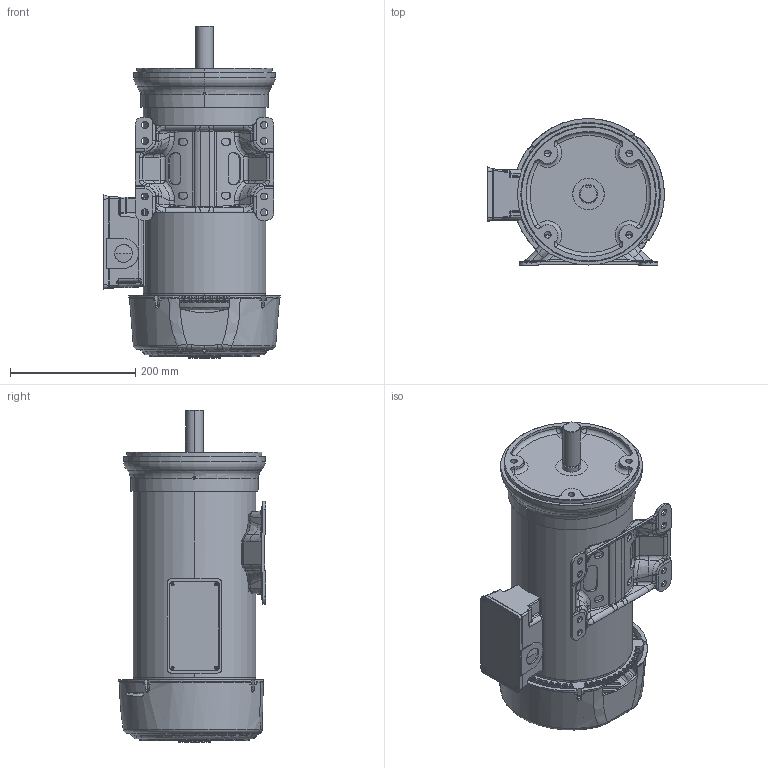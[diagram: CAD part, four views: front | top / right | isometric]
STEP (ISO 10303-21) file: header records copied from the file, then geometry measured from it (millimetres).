
FILE_DESCRIPTION((''),'2;1');
FILE_NAME('180_SSTL_ASM_ASM','2015-06-11T',('NMC2342'),('Nidec Motor Corporation'),'PRO/ENGINEER BY PARAMETRIC TECHNOLOGY CORPORATION, 2013150','PRO/ENGINEER BY PARAMETRIC TECHNOLOGY CORPORATION, 2013150','');
FILE_SCHEMA(('CONFIG_CONTROL_DESIGN'));
Length unit declared in the file: inch
Products named in the file (12): 0497464_AF0; 0903371; 0903372-RC; 0345786; 0497463; 0380228; 0027197; 0391817; 0391816; 0361265; PRT0002; 180_SSTL_ASM_ASM
Assembly tree (11 placements, depth 2):
  180_SSTL_ASM_ASM
    0497464_AF0
    0903371
    0903372-RC
    0345786
    0497463
    0380228
    0027197
    0391817
    0391816
    0361265
    PRT0002
Bounding box: 282.81 x 235.17 x 530.89 mm (x, y, z)
Volume: 2719230.1 mm3; surface area: 1064612 mm2
Topology: 13 solids, 13 shells, 3313 faces, 8076 edges, 4766 vertices
Faces by surface type: bspline 1523, plane 601, cylinder 581, torus 255, cone 184, extrusion 98, sphere 71
Entity records: 177513 total; most frequent: CARTESIAN_POINT 111123, ORIENTED_EDGE 16104, DIRECTION 10519, EDGE_CURVE 8052, VERTEX_POINT 4766, AXIS2_PLACEMENT_3D 4233, B_SPLINE_CURVE_WITH_KNOTS 3677, EDGE_LOOP 3478
